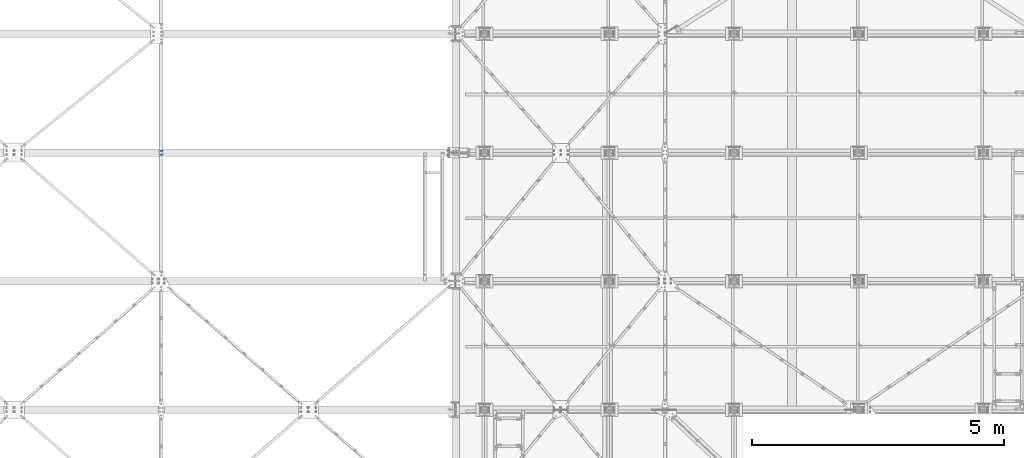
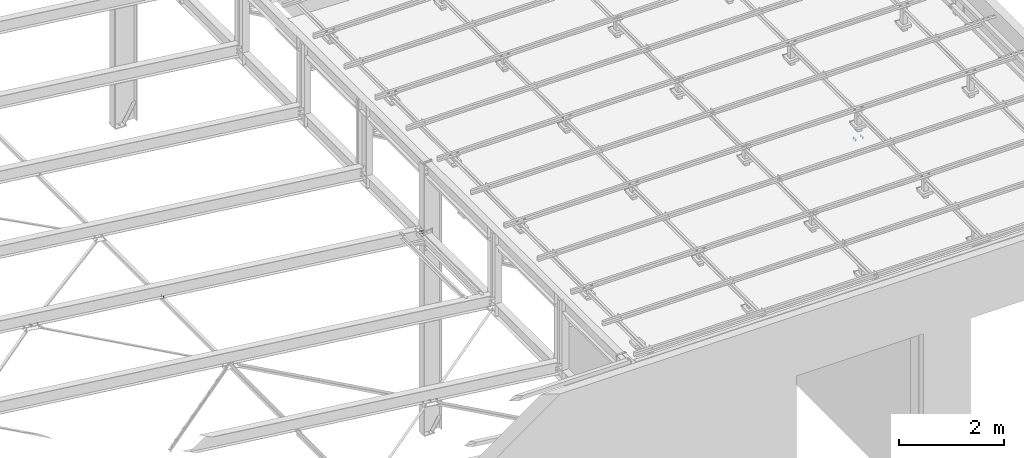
# One storey, part 319 of 3134: 3 mechanical fasteners, 3 elements without a shape of their own.
"""IFC2X3 building model written with IfcOpenShell, lengths in millimetres."""

from ifc_helpers import new_model, si_unit, frame, origin_with_axes, place, context, subcontext, project, spatial, faceted_brep, source, transform, mapped, material, type_object, element, aggregate, save


model = new_model("IFC2X3")

# Units and contexts
model_context = context("Model", 3, precision=1e-05, world=origin_with_axes())
body_context = subcontext(model_context, "Body", "Model", "MODEL_VIEW")
ifc_project = project(units=[si_unit("LENGTHUNIT", "METRE", prefix="MILLI"), si_unit("AREAUNIT", "SQUARE_METRE"), si_unit("VOLUMEUNIT", "CUBIC_METRE"), si_unit("MASSUNIT", "GRAM", prefix="KILO"), si_unit("TIMEUNIT", "SECOND"), si_unit("PLANEANGLEUNIT", "RADIAN"), si_unit("SOLIDANGLEUNIT", "STERADIAN"), si_unit("THERMODYNAMICTEMPERATUREUNIT", "DEGREE_CELSIUS"), si_unit("LUMINOUSINTENSITYUNIT", "LUMEN")], contexts=[model_context])

# Site, building, storey
site_placement = place(None, origin_with_axes())
site = spatial("IfcSite", under=ifc_project, at=site_placement, CompositionType="ELEMENT")
building_placement = place(site_placement, origin_with_axes())
building = spatial("IfcBuilding", under=site, at=building_placement, Name="Undefined", CompositionType="ELEMENT")
storey_placement = place(building_placement, origin_with_axes())
storey = spatial("IfcBuildingStorey", under=building, at=storey_placement, Name="Undefined", CompositionType="ELEMENT", Elevation=0.0)

# Assembly, mechanical fastener
assembly_1_placement = place(storey_placement, origin_with_axes())
assembly_1 = element("IfcElementAssembly", 1, at=assembly_1_placement, inside=storey, Name="IPE400", AssemblyPlace="NOTDEFINED", PredefinedType="RIGID_FRAME")
ifc_material = material(Name="8.8")
mechanical_fastener_type = type_object("IfcMechanicalFastenerType", Name="Bolt assembly")
shared_shape_1 = source(origin_with_axes(), body_context, "Body", "Brep", [
    faceted_brep([(13.856406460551, -33.499999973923, 0.0), (6.92820323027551, -33.499999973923, 12.0), (-6.92820323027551, -33.499999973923, 12.0), (-13.856406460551, -33.499999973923, 1.69692038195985e-15), (-6.92820323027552, -33.499999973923, -12.0), (6.9282032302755, -33.499999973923, -12.0), (6.9282032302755, -23.499999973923, -12.0), (-6.92820323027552, -23.499999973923, -12.0), (-13.856406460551, -23.499999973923, 1.69692038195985e-15), (-6.92820323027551, -23.499999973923, 12.0), (6.92820323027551, -23.499999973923, 12.0), (13.856406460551, -23.499999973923, 0.0), (8.0, -23.499999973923, 0.0), (6.92820323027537, -23.499999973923, 4.00000000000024), (3.99999999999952, -23.499999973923, 6.92820323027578), (-8.29068785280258e-13, -23.499999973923, 8.0), (-4.00000000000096, -23.499999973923, 6.92820323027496), (-6.9282032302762, -23.499999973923, 3.99999999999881), (-8.0, -23.499999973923, -1.65813757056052e-12), (-6.92820323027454, -23.499999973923, -4.00000000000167), (-3.99999999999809, -23.499999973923, -6.92820323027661), (2.47832457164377e-12, -23.499999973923, -8.0), (4.00000000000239, -23.499999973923, -6.92820323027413), (6.92820323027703, -23.499999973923, -3.99999999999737), (6.92820323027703, 21.500000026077, -3.99999999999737), (4.00000000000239, 21.500000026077, -6.92820323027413), (2.47832457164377e-12, 21.500000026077, -8.0), (-3.99999999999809, 21.500000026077, -6.92820323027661), (-6.92820323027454, 21.500000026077, -4.00000000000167), (-8.0, 21.500000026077, -1.65813757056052e-12), (-6.9282032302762, 21.500000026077, 3.99999999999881), (-4.00000000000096, 21.500000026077, 6.92820323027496), (-8.29068785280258e-13, 21.500000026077, 8.0), (3.99999999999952, 21.500000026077, 6.92820323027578), (6.92820323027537, 21.500000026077, 4.00000000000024), (8.0, 21.500000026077, 0.0), (13.856406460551, 0.0, 0.0), (6.92820323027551, 0.0, 12.0), (-6.92820323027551, 0.0, 12.0), (-13.856406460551, 0.0, 1.69692038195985e-15), (-6.92820323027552, 0.0, -12.0), (6.9282032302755, 0.0, -12.0), (6.9282032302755, 12.9999996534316, -12.0), (-6.92820323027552, 12.9999996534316, -12.0), (-13.856406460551, 12.9999996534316, 1.69692038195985e-15), (-6.92820323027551, 12.9999996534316, 12.0), (6.92820323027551, 12.9999996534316, 12.0), (13.856406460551, 12.9999996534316, 0.0)], [[[0, 1, 2, 3, 4, 5]], [[6, 7, 8, 9, 10, 11]], [[0, 11, 10, 1]], [[1, 10, 9, 2]], [[2, 9, 8, 3]], [[3, 8, 7, 4]], [[4, 7, 6, 5]], [[5, 6, 11, 0]], [[12, 13, 14, 15, 16, 17, 18, 19, 20, 21, 22, 23]], [[24, 25, 26, 27, 28, 29, 30, 31, 32, 33, 34, 35]], [[12, 35, 34, 13]], [[13, 34, 33, 14]], [[14, 33, 32, 15]], [[15, 32, 31, 16]], [[16, 31, 30, 17]], [[17, 30, 29, 18]], [[18, 29, 28, 19]], [[19, 28, 27, 20]], [[20, 27, 26, 21]], [[21, 26, 25, 22]], [[22, 25, 24, 23]], [[23, 24, 35, 12]], [[36, 37, 38, 39, 40, 41]], [[42, 43, 44, 45, 46, 47]], [[36, 47, 46, 37]], [[37, 46, 45, 38]], [[38, 45, 44, 39]], [[39, 44, 43, 40]], [[40, 43, 42, 41]], [[41, 42, 47, 36]]]),
    faceted_brep([(9.0, -10.1000003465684, 0.0), (7.79422863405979, -10.1000003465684, 4.50000000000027), (4.49999999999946, -10.1000003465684, 7.79422863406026), (-9.3270238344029e-13, -10.1000003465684, 9.0), (-4.50000000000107, -10.1000003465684, 7.79422863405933), (-7.79422863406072, -10.1000003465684, 4.49999999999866), (-9.0, -10.1000003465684, -1.86540476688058e-12), (-7.79422863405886, -10.1000003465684, -4.50000000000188), (-4.49999999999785, -10.1000003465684, -7.79422863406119), (2.78811514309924e-12, -10.1000003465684, -9.0), (4.50000000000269, -10.1000003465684, -7.7942286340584), (7.79422863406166, -10.1000003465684, -4.49999999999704), (7.79422863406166, -3.46568413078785e-07, -4.49999999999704), (4.50000000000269, -3.46568413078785e-07, -7.7942286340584), (2.78811514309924e-12, -3.46568413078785e-07, -9.0), (-4.49999999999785, -3.46568413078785e-07, -7.79422863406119), (-7.79422863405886, -3.46568413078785e-07, -4.50000000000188), (-9.0, -3.46568413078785e-07, -1.86540476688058e-12), (-7.79422863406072, -3.46568413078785e-07, 4.49999999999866), (-4.50000000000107, -3.46568413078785e-07, 7.79422863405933), (-9.3270238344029e-13, -3.46568413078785e-07, 9.0), (4.49999999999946, -3.46568413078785e-07, 7.79422863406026), (7.79422863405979, -3.46568413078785e-07, 4.50000000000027), (9.0, -3.46568413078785e-07, 0.0), (9.0, -23.399999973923, 0.0), (7.79422863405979, -23.399999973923, 4.50000000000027), (4.49999999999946, -23.399999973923, 7.79422863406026), (-9.3270238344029e-13, -23.399999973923, 9.0), (-4.50000000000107, -23.399999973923, 7.79422863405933), (-7.79422863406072, -23.399999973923, 4.49999999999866), (-9.0, -23.399999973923, -1.86540476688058e-12), (-7.79422863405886, -23.399999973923, -4.50000000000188), (-4.49999999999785, -23.399999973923, -7.79422863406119), (2.78811514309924e-12, -23.399999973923, -9.0), (4.50000000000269, -23.399999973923, -7.7942286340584), (7.79422863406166, -23.399999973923, -4.49999999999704), (7.79422863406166, -9.89999997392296, -4.49999999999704), (4.50000000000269, -9.89999997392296, -7.7942286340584), (2.78811514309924e-12, -9.89999997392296, -9.0), (-4.49999999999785, -9.89999997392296, -7.79422863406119), (-7.79422863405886, -9.89999997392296, -4.50000000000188), (-9.0, -9.89999997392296, -1.86540476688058e-12), (-7.79422863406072, -9.89999997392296, 4.49999999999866), (-4.50000000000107, -9.89999997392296, 7.79422863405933), (-9.3270238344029e-13, -9.89999997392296, 9.0), (4.49999999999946, -9.89999997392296, 7.79422863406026), (7.79422863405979, -9.89999997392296, 4.50000000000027), (9.0, -9.89999997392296, 0.0)], [[[0, 1, 2, 3, 4, 5, 6, 7, 8, 9, 10, 11]], [[12, 13, 14, 15, 16, 17, 18, 19, 20, 21, 22, 23]], [[0, 23, 22, 1]], [[1, 22, 21, 2]], [[2, 21, 20, 3]], [[3, 20, 19, 4]], [[4, 19, 18, 5]], [[5, 18, 17, 6]], [[6, 17, 16, 7]], [[7, 16, 15, 8]], [[8, 15, 14, 9]], [[9, 14, 13, 10]], [[10, 13, 12, 11]], [[11, 12, 23, 0]], [[24, 25, 26, 27, 28, 29, 30, 31, 32, 33, 34, 35]], [[36, 37, 38, 39, 40, 41, 42, 43, 44, 45, 46, 47]], [[24, 47, 46, 25]], [[25, 46, 45, 26]], [[26, 45, 44, 27]], [[27, 44, 43, 28]], [[28, 43, 42, 29]], [[29, 42, 41, 30]], [[30, 41, 40, 31]], [[31, 40, 39, 32]], [[32, 39, 38, 33]], [[33, 38, 37, 34]], [[34, 37, 36, 35]], [[35, 36, 47, 24]]]),
])
mechanical_fastener_1_placement = place(assembly_1_placement, frame((67405.0000000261, 7650.0, 4360.7105303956), z_axis=(0.0, 1.0, 0.0), x_axis=(0.0, 0.0, -1.0)))
mechanical_fastener_1 = element("IfcMechanicalFastener", 2, at=mechanical_fastener_1_placement, type_object=mechanical_fastener_type, material=ifc_material, Name="Bolt assembly", NominalDiameter=16.0, NominalLength=45.0, context=body_context, shape_type="MappedRepresentation", body=[
    mapped(shared_shape_1, transform((0.0, 0.0, -45.0))),
    mapped(shared_shape_1, transform((60.0, 0.0, -45.0))),
    mapped(shared_shape_1, transform((120.0, 0.0, -45.0))),
    mapped(shared_shape_1, transform((0.0, 0.0, 45.0))),
    mapped(shared_shape_1, transform((60.0, 0.0, 45.0))),
    mapped(shared_shape_1, transform((120.0, 0.0, 45.0))),
])
aggregate(assembly_1, [mechanical_fastener_1])

assembly_2_placement = place(storey_placement, origin_with_axes())
assembly_2 = element("IfcElementAssembly", 3, at=assembly_2_placement, inside=storey, AssemblyPlace="NOTDEFINED", PredefinedType="RIGID_FRAME")
shared_shape_2 = source(origin_with_axes(), body_context, "Body", "Brep", [
    faceted_brep([(13.856406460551, -19.199990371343, 0.0), (6.92820323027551, -19.199990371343, 12.0), (-6.92820323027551, -19.199990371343, 12.0), (-13.856406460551, -19.199990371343, 1.69692038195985e-15), (-6.92820323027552, -19.199990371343, -12.0), (6.9282032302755, -19.199990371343, -12.0), (6.9282032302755, -9.19999037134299, -12.0), (-6.92820323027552, -9.19999037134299, -12.0), (-13.856406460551, -9.19999037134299, 1.69692038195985e-15), (-6.92820323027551, -9.19999037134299, 12.0), (6.92820323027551, -9.19999037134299, 12.0), (13.856406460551, -9.19999037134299, 0.0), (8.0, -9.19999037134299, 0.0), (6.92820323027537, -9.19999037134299, 4.00000000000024), (3.99999999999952, -9.19999037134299, 6.92820323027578), (-8.29068785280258e-13, -9.19999037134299, 8.0), (-4.00000000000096, -9.19999037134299, 6.92820323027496), (-6.9282032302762, -9.19999037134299, 3.99999999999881), (-8.0, -9.19999037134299, -1.65813757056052e-12), (-6.92820323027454, -9.19999037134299, -4.00000000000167), (-3.99999999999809, -9.19999037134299, -6.92820323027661), (2.47832457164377e-12, -9.19999037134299, -8.0), (4.00000000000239, -9.19999037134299, -6.92820323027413), (6.92820323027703, -9.19999037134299, -3.99999999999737), (6.92820323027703, 35.8000002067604, -3.99999999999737), (4.00000000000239, 35.8000002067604, -6.92820323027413), (2.47832457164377e-12, 35.8000002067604, -8.0), (-3.99999999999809, 35.8000002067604, -6.92820323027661), (-6.92820323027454, 35.8000002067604, -4.00000000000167), (-8.0, 35.8000002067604, -1.65813757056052e-12), (-6.9282032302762, 35.8000002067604, 3.99999999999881), (-4.00000000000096, 35.8000002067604, 6.92820323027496), (-8.29068785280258e-13, 35.8000002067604, 8.0), (3.99999999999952, 35.8000002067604, 6.92820323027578), (6.92820323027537, 35.8000002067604, 4.00000000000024), (8.0, 35.8000002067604, 0.0), (13.856406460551, 14.9999995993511, 0.0), (6.92820323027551, 14.9999995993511, 12.0), (-6.92820323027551, 14.9999995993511, 12.0), (-13.856406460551, 14.9999995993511, 1.69692038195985e-15), (-6.92820323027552, 14.9999995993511, -12.0), (6.9282032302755, 14.9999995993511, -12.0), (6.9282032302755, 27.9999995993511, -12.0), (-6.92820323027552, 27.9999995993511, -12.0), (-13.856406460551, 27.9999995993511, 1.69692038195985e-15), (-6.92820323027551, 27.9999995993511, 12.0), (6.92820323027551, 27.9999995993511, 12.0), (13.856406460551, 27.9999995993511, 0.0)], [[[0, 1, 2, 3, 4, 5]], [[6, 7, 8, 9, 10, 11]], [[0, 11, 10, 1]], [[1, 10, 9, 2]], [[2, 9, 8, 3]], [[3, 8, 7, 4]], [[4, 7, 6, 5]], [[5, 6, 11, 0]], [[12, 13, 14, 15, 16, 17, 18, 19, 20, 21, 22, 23]], [[24, 25, 26, 27, 28, 29, 30, 31, 32, 33, 34, 35]], [[12, 35, 34, 13]], [[13, 34, 33, 14]], [[14, 33, 32, 15]], [[15, 32, 31, 16]], [[16, 31, 30, 17]], [[17, 30, 29, 18]], [[18, 29, 28, 19]], [[19, 28, 27, 20]], [[20, 27, 26, 21]], [[21, 26, 25, 22]], [[22, 25, 24, 23]], [[23, 24, 35, 12]], [[36, 37, 38, 39, 40, 41]], [[42, 43, 44, 45, 46, 47]], [[36, 47, 46, 37]], [[37, 46, 45, 38]], [[38, 45, 44, 39]], [[39, 44, 43, 40]], [[40, 43, 42, 41]], [[41, 42, 47, 36]]]),
    faceted_brep([(9.0, -9.09999037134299, 0.0), (7.79422863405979, -9.09999037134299, 4.50000000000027), (4.49999999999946, -9.09999037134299, 7.79422863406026), (-9.3270238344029e-13, -9.09999037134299, 9.0), (-4.50000000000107, -9.09999037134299, 7.79422863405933), (-7.79422863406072, -9.09999037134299, 4.49999999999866), (-9.0, -9.09999037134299, -1.86540476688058e-12), (-7.79422863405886, -9.09999037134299, -4.50000000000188), (-4.49999999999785, -9.09999037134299, -7.79422863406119), (2.78811514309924e-12, -9.09999037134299, -9.0), (4.50000000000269, -9.09999037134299, -7.7942286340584), (7.79422863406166, -9.09999037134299, -4.49999999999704), (7.79422863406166, 0.100000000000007, -4.49999999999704), (4.50000000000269, 0.100000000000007, -7.7942286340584), (2.78811514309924e-12, 0.100000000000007, -9.0), (-4.49999999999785, 0.100000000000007, -7.79422863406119), (-7.79422863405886, 0.100000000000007, -4.50000000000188), (-9.0, 0.100000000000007, -1.86540476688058e-12), (-7.79422863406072, 0.100000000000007, 4.49999999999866), (-4.50000000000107, 0.100000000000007, 7.79422863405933), (-9.3270238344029e-13, 0.100000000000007, 9.0), (4.49999999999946, 0.100000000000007, 7.79422863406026), (7.79422863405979, 0.100000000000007, 4.50000000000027), (9.0, 0.100000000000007, 0.0), (9.0, 7.9, 0.0), (7.79422863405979, 7.9, 4.50000000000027), (4.49999999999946, 7.9, 7.79422863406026), (-9.3270238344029e-13, 7.9, 9.0), (-4.50000000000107, 7.9, 7.79422863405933), (-7.79422863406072, 7.9, 4.49999999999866), (-9.0, 7.9, -1.86540476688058e-12), (-7.79422863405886, 7.9, -4.50000000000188), (-4.49999999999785, 7.9, -7.79422863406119), (2.78811514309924e-12, 7.9, -9.0), (4.50000000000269, 7.9, -7.7942286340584), (7.79422863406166, 7.9, -4.49999999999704), (7.79422863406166, 14.9999995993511, -4.49999999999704), (4.50000000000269, 14.9999995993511, -7.7942286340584), (2.78811514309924e-12, 14.9999995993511, -9.0), (-4.49999999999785, 14.9999995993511, -7.79422863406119), (-7.79422863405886, 14.9999995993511, -4.50000000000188), (-9.0, 14.9999995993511, -1.86540476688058e-12), (-7.79422863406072, 14.9999995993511, 4.49999999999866), (-4.50000000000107, 14.9999995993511, 7.79422863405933), (-9.3270238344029e-13, 14.9999995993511, 9.0), (4.49999999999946, 14.9999995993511, 7.79422863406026), (7.79422863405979, 14.9999995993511, 4.50000000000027), (9.0, 14.9999995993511, 0.0)], [[[0, 1, 2, 3, 4, 5, 6, 7, 8, 9, 10, 11]], [[12, 13, 14, 15, 16, 17, 18, 19, 20, 21, 22, 23]], [[0, 23, 22, 1]], [[1, 22, 21, 2]], [[2, 21, 20, 3]], [[3, 20, 19, 4]], [[4, 19, 18, 5]], [[5, 18, 17, 6]], [[6, 17, 16, 7]], [[7, 16, 15, 8]], [[8, 15, 14, 9]], [[9, 14, 13, 10]], [[10, 13, 12, 11]], [[11, 12, 23, 0]], [[24, 25, 26, 27, 28, 29, 30, 31, 32, 33, 34, 35]], [[36, 37, 38, 39, 40, 41, 42, 43, 44, 45, 46, 47]], [[24, 47, 46, 25]], [[25, 46, 45, 26]], [[26, 45, 44, 27]], [[27, 44, 43, 28]], [[28, 43, 42, 29]], [[29, 42, 41, 30]], [[30, 41, 40, 31]], [[31, 40, 39, 32]], [[32, 39, 38, 33]], [[33, 38, 37, 34]], [[34, 37, 36, 35]], [[35, 36, 47, 24]]]),
])
mechanical_fastener_2_placement = place(assembly_2_placement, frame((61712.9849612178, 7612.0, 4806.73358921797), z_axis=(-0.992623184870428, 0.0, 0.121240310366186), x_axis=(0.0, 1.0, 0.0)))
mechanical_fastener_2 = element("IfcMechanicalFastener", 4, at=mechanical_fastener_2_placement, type_object=mechanical_fastener_type, material=ifc_material, Name="Bolt assembly", NominalDiameter=16.0, NominalLength=45.0, context=body_context, shape_type="MappedRepresentation", body=[
    mapped(shared_shape_2, transform((0.0, 0.0, 0.0))),
    mapped(shared_shape_2, transform((76.0, 0.0, 0.0))),
])
aggregate(assembly_2, [mechanical_fastener_2])

assembly_3_placement = place(storey_placement, origin_with_axes())
assembly_3 = element("IfcElementAssembly", 5, at=assembly_3_placement, inside=storey, Name="300", AssemblyPlace="NOTDEFINED", PredefinedType="RIGID_FRAME")
shared_shape_3 = source(origin_with_axes(), body_context, "Body", "Brep", [
    faceted_brep([(10.9696551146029, -10.1954959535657, 0.0), (5.48482755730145, -10.1954959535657, 9.5), (-5.48482755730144, -10.1954959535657, 9.5), (-10.9696551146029, -10.1954959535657, 1.34339530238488e-15), (-5.48482755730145, -10.1954959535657, -9.5), (5.48482755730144, -10.1954959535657, -9.50000000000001), (5.48482755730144, -2.19549595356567, -9.50000000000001), (-5.48482755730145, -2.19549595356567, -9.5), (-10.9696551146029, -2.19549595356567, 1.34339530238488e-15), (-5.48482755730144, -2.19549595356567, 9.5), (5.48482755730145, -2.19549595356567, 9.5), (10.9696551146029, -2.19549595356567, 0.0), (6.0, -2.19549595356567, 0.0), (5.19615242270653, -2.19549595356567, 3.00000000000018), (2.99999999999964, -2.19549595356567, 5.19615242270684), (-6.21801588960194e-13, -2.19549595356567, 6.0), (-3.00000000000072, -2.19549595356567, 5.19615242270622), (-5.19615242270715, -2.19549595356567, 2.9999999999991), (-6.0, -2.19549595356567, -1.24360317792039e-12), (-5.19615242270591, -2.19549595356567, -3.00000000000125), (-2.99999999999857, -2.19549595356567, -5.19615242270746), (1.85874342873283e-12, -2.19549595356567, -6.0), (3.00000000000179, -2.19549595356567, -5.1961524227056), (5.19615242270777, -2.19549595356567, -2.99999999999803), (5.19615242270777, 32.8045040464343, -2.99999999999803), (3.00000000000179, 32.8045040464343, -5.1961524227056), (1.85874342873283e-12, 32.8045040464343, -6.0), (-2.99999999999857, 32.8045040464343, -5.19615242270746), (-5.19615242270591, 32.8045040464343, -3.00000000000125), (-6.0, 32.8045040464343, -1.24360317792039e-12), (-5.19615242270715, 32.8045040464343, 2.9999999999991), (-3.00000000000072, 32.8045040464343, 5.19615242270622), (-6.21801588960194e-13, 32.8045040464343, 6.0), (2.99999999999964, 32.8045040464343, 5.19615242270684), (5.19615242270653, 32.8045040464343, 3.00000000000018), (6.0, 32.8045040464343, 0.0), (10.9696551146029, 17.0008987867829, 0.0), (5.48482755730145, 17.0008987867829, 9.5), (-5.48482755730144, 17.0008987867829, 9.5), (-10.9696551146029, 17.0008987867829, 1.34339530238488e-15), (-5.48482755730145, 17.0008987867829, -9.5), (5.48482755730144, 17.0008987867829, -9.50000000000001), (5.48482755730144, 27.0008987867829, -9.50000000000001), (-5.48482755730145, 27.0008987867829, -9.5), (-10.9696551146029, 27.0008987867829, 1.34339530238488e-15), (-5.48482755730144, 27.0008987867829, 9.5), (5.48482755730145, 27.0008987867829, 9.5), (10.9696551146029, 27.0008987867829, 0.0)], [[[0, 1, 2, 3, 4, 5]], [[6, 7, 8, 9, 10, 11]], [[0, 11, 10, 1]], [[1, 10, 9, 2]], [[2, 9, 8, 3]], [[3, 8, 7, 4]], [[4, 7, 6, 5]], [[5, 6, 11, 0]], [[12, 13, 14, 15, 16, 17, 18, 19, 20, 21, 22, 23]], [[24, 25, 26, 27, 28, 29, 30, 31, 32, 33, 34, 35]], [[12, 35, 34, 13]], [[13, 34, 33, 14]], [[14, 33, 32, 15]], [[15, 32, 31, 16]], [[16, 31, 30, 17]], [[17, 30, 29, 18]], [[18, 29, 28, 19]], [[19, 28, 27, 20]], [[20, 27, 26, 21]], [[21, 26, 25, 22]], [[22, 25, 24, 23]], [[23, 24, 35, 12]], [[36, 37, 38, 39, 40, 41]], [[42, 43, 44, 45, 46, 47]], [[36, 47, 46, 37]], [[37, 46, 45, 38]], [[38, 45, 44, 39]], [[39, 44, 43, 40]], [[40, 43, 42, 41]], [[41, 42, 47, 36]]]),
    faceted_brep([(7.0, 8.90089878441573, 0.0), (6.06217782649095, 8.90089878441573, 3.50000000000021), (3.49999999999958, 8.90089878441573, 6.06217782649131), (-7.25435187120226e-13, 8.90089878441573, 7.0), (-3.50000000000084, 8.90089878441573, 6.06217782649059), (-6.06217782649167, 8.90089878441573, 3.49999999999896), (-7.0, 8.90089878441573, -1.45087037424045e-12), (-6.06217782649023, 8.90089878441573, -3.50000000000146), (-3.49999999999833, 8.90089878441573, -6.06217782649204), (2.1685340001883e-12, 8.90089878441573, -7.0), (3.50000000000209, 8.90089878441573, -6.06217782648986), (6.0621778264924, 8.90089878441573, -3.4999999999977), (6.0621778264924, 17.0008987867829, -3.4999999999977), (3.50000000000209, 17.0008987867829, -6.06217782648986), (2.1685340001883e-12, 17.0008987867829, -7.0), (-3.49999999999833, 17.0008987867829, -6.06217782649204), (-6.06217782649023, 17.0008987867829, -3.50000000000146), (-7.0, 17.0008987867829, -1.45087037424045e-12), (-6.06217782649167, 17.0008987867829, 3.49999999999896), (-3.50000000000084, 17.0008987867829, 6.06217782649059), (-7.25435187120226e-13, 17.0008987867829, 7.0), (3.49999999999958, 17.0008987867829, 6.06217782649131), (6.06217782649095, 17.0008987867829, 3.50000000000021), (7.0, 17.0008987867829, 0.0), (7.0, -2.09549595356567, 0.0), (6.06217782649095, -2.09549595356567, 3.50000000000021), (3.49999999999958, -2.09549595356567, 6.06217782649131), (-7.25435187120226e-13, -2.09549595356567, 7.0), (-3.50000000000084, -2.09549595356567, 6.06217782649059), (-6.06217782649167, -2.09549595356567, 3.49999999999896), (-7.0, -2.09549595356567, -1.45087037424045e-12), (-6.06217782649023, -2.09549595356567, -3.50000000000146), (-3.49999999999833, -2.09549595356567, -6.06217782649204), (2.1685340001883e-12, -2.09549595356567, -7.0), (3.50000000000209, -2.09549595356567, -6.06217782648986), (6.0621778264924, -2.09549595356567, -3.4999999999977), (6.0621778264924, 7.10450385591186, -3.4999999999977), (3.50000000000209, 7.10450385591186, -6.06217782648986), (2.1685340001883e-12, 7.10450385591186, -7.0), (-3.49999999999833, 7.10450385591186, -6.06217782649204), (-6.06217782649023, 7.10450385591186, -3.50000000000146), (-7.0, 7.10450385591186, -1.45087037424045e-12), (-6.06217782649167, 7.10450385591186, 3.49999999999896), (-3.50000000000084, 7.10450385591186, 6.06217782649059), (-7.25435187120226e-13, 7.10450385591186, 7.0), (3.49999999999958, 7.10450385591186, 6.06217782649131), (6.06217782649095, 7.10450385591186, 3.50000000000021), (7.0, 7.10450385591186, 0.0)], [[[0, 1, 2, 3, 4, 5, 6, 7, 8, 9, 10, 11]], [[12, 13, 14, 15, 16, 17, 18, 19, 20, 21, 22, 23]], [[0, 23, 22, 1]], [[1, 22, 21, 2]], [[2, 21, 20, 3]], [[3, 20, 19, 4]], [[4, 19, 18, 5]], [[5, 18, 17, 6]], [[6, 17, 16, 7]], [[7, 16, 15, 8]], [[8, 15, 14, 9]], [[9, 14, 13, 10]], [[10, 13, 12, 11]], [[11, 12, 23, 0]], [[24, 25, 26, 27, 28, 29, 30, 31, 32, 33, 34, 35]], [[36, 37, 38, 39, 40, 41, 42, 43, 44, 45, 46, 47]], [[24, 47, 46, 25]], [[25, 46, 45, 26]], [[26, 45, 44, 27]], [[27, 44, 43, 28]], [[28, 43, 42, 29]], [[29, 42, 41, 30]], [[30, 41, 40, 31]], [[31, 40, 39, 32]], [[32, 39, 38, 33]], [[33, 38, 37, 34]], [[34, 37, 36, 35]], [[35, 36, 47, 24]]]),
])
mechanical_fastener_3_placement = place(assembly_3_placement, frame((75549.5351187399, 5138.0, 5185.0072055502), z_axis=(-0.99951962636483, 0.0, 0.0309922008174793), x_axis=(0.0, -1.0, 0.0)))
mechanical_fastener_3 = element("IfcMechanicalFastener", 6, at=mechanical_fastener_3_placement, type_object=mechanical_fastener_type, material=ifc_material, Name="Bolt assembly", NominalDiameter=12.0, NominalLength=35.0, context=body_context, shape_type="MappedRepresentation", body=[
    mapped(shared_shape_3, transform((0.0, -5.32963895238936e-10, -79.9999999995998))),
    mapped(shared_shape_3, transform((76.0, -5.32963895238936e-10, -79.9999999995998))),
    mapped(shared_shape_3, transform((0.0, 5.3114490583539e-10, 79.9999999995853))),
    mapped(shared_shape_3, transform((76.0, 5.3114490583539e-10, 79.9999999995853))),
])
aggregate(assembly_3, [mechanical_fastener_3])

save(model, "model.ifc")
